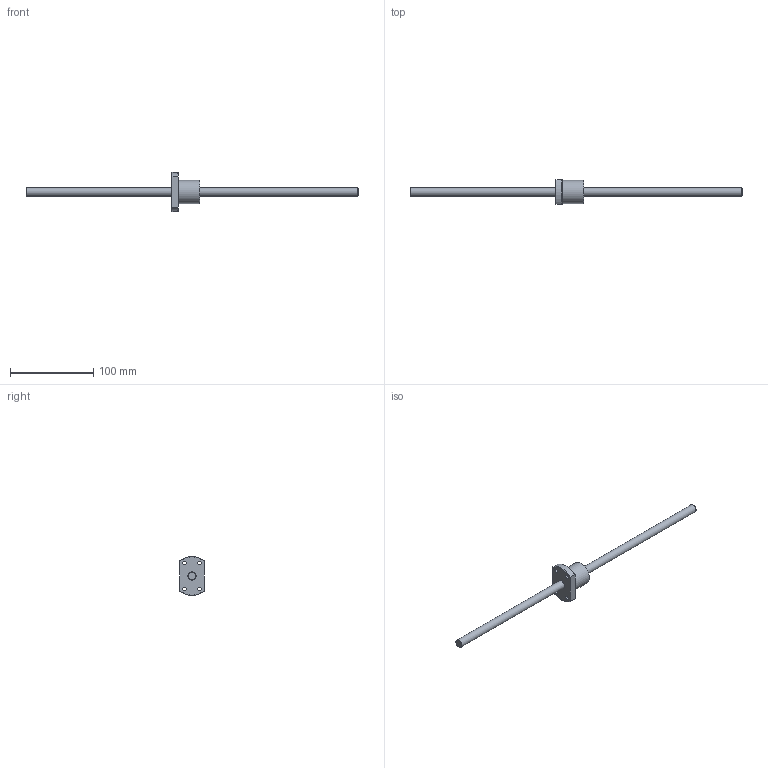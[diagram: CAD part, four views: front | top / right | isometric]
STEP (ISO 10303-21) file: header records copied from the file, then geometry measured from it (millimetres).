
FILE_DESCRIPTION((''),'2;1');
FILE_NAME('D:\製品 (図面)\カタログ用3D\ネジ関連\STEP形式\RBSDA\RBSDA1010-0400.stp','2010-06-02T14:39:59',('Tsuchiya'),(''),'Autodesk Inventor 10','Autodesk Inventor 10','');
FILE_SCHEMA(('AUTOMOTIVE_DESIGN { 1 0 10303 214 1 1 1 1 }'));
Length unit declared in the file: millimetre
Products named in the file (3): RBSDA1010-0400; RBSDA1010-04001; RBSDA1010-04002
Assembly tree (2 placements, depth 2):
  RBSDA1010-0400
    RBSDA1010-04001
    RBSDA1010-04002
Bounding box: 400 x 30 x 47 mm (x, y, z)
Volume: 54670.2 mm3; surface area: 19876.4 mm2
Topology: 2 solids, 2 shells, 23 faces, 55 edges, 37 vertices
Faces by surface type: cylinder 9, cone 7, plane 7
Full cylindrical faces by diameter (mm): 4.5 x4, 10 x2, 28 x1
Entity records: 684 total; most frequent: CARTESIAN_POINT 118, DIRECTION 114, ORIENTED_EDGE 82, AXIS2_PLACEMENT_3D 53, EDGE_LOOP 44, EDGE_CURVE 41, VERTEX_POINT 33, CIRCLE 25
